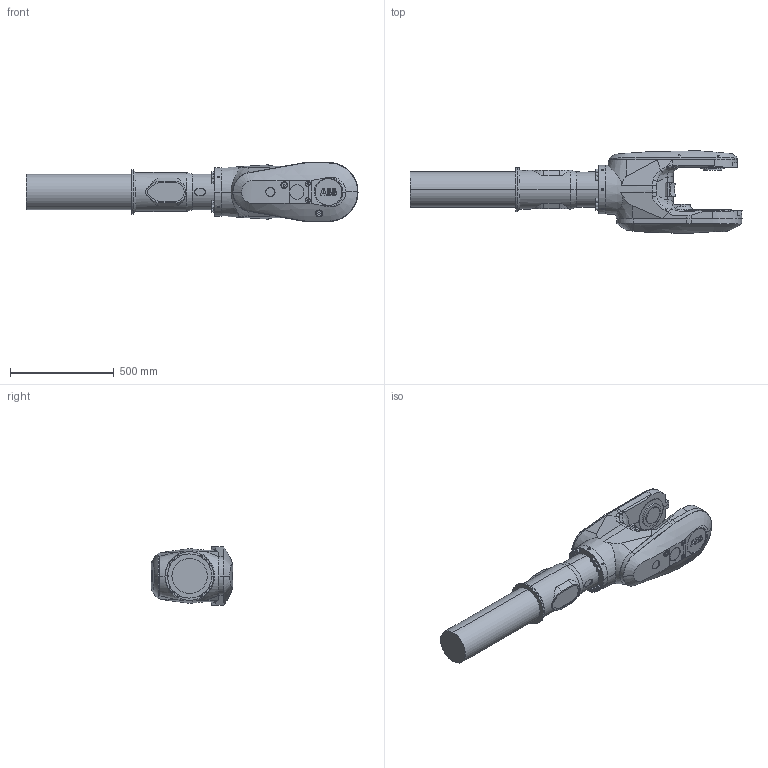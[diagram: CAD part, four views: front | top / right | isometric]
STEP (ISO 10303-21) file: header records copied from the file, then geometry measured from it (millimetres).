
FILE_DESCRIPTION (( 'STEP AP203' ), '1' );
FILE_NAME ('IRB6700_200_280_MH_link4_CAD_01.STEP', '2013-10-23T12:32:28', ( 'ABB' ), ( 'ABB' ), 'SwSTEP 2.0', 'SolidWorks 2012', '' );
FILE_SCHEMA (( 'CONFIG_CONTROL_DESIGN' ));
Length unit declared in the file: millimetre
Products named in the file (1): IRB6700_200_280_MH_link4_CAD_01
Bounding box: 1599.5 x 395 x 284 mm (x, y, z)
Volume: 60108665.3 mm3; surface area: 1430868.3 mm2
Topology: 1 solids, 1 shells, 741 faces, 1851 edges, 1175 vertices
Faces by surface type: plane 390, cylinder 169, cone 120, bspline 58, torus 4
Entity records: 33439 total; most frequent: CARTESIAN_POINT 16643, ORIENTED_EDGE 3650, DIRECTION 3157, EDGE_CURVE 1825, VERTEX_POINT 1175, AXIS2_PLACEMENT_3D 1080, VECTOR 997, LINE 997
